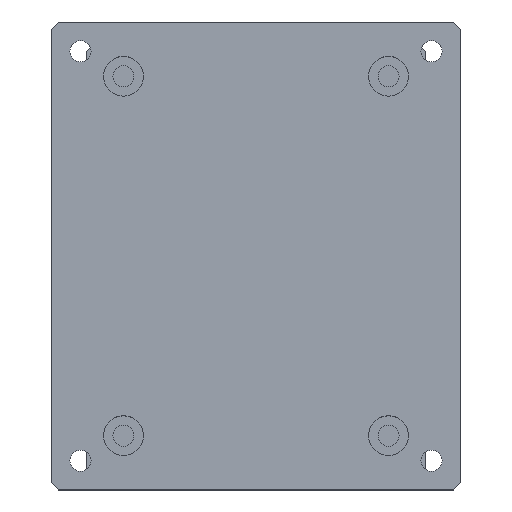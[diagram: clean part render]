
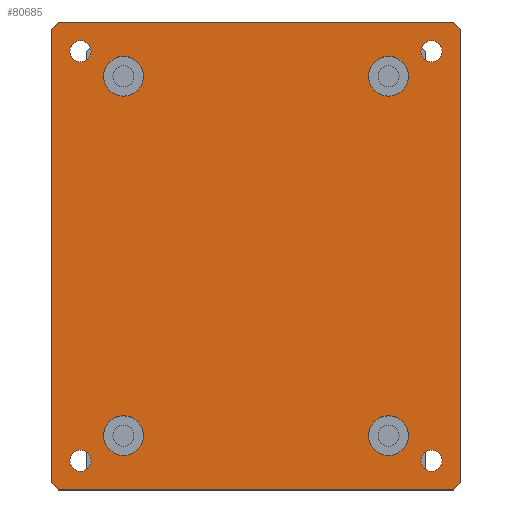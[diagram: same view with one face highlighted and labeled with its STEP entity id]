
A CAD part, top view. The second image highlights one B-rep face of the part: STEP entity #80685.
In plain terms, the highlighted planar face has unit normal (0, 0, 1).
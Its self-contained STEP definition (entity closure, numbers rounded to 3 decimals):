
#80022=DIRECTION('',(-0.707,0.707,0.));
#80023=VECTOR('',#80022,4.243);
#80024=CARTESIAN_POINT('',(-84.5,-100.,10.));
#80025=LINE('',#80024,#80023);
#80026=DIRECTION('',(0.,1.,0.));
#80027=VECTOR('',#80026,194.);
#80028=CARTESIAN_POINT('',(-87.5,-97.,10.));
#80029=LINE('',#80028,#80027);
#80030=DIRECTION('',(0.707,0.707,0.));
#80031=VECTOR('',#80030,4.243);
#80032=CARTESIAN_POINT('',(-87.5,97.,10.));
#80033=LINE('',#80032,#80031);
#80034=DIRECTION('',(1.,0.,0.));
#80035=VECTOR('',#80034,169.);
#80036=CARTESIAN_POINT('',(-84.5,100.,10.));
#80037=LINE('',#80036,#80035);
#80038=DIRECTION('',(0.707,-0.707,0.));
#80039=VECTOR('',#80038,4.243);
#80040=CARTESIAN_POINT('',(84.5,100.,10.));
#80041=LINE('',#80040,#80039);
#80042=DIRECTION('',(0.,-1.,0.));
#80043=VECTOR('',#80042,194.);
#80044=CARTESIAN_POINT('',(87.5,97.,10.));
#80045=LINE('',#80044,#80043);
#80046=DIRECTION('',(-0.707,-0.707,0.));
#80047=VECTOR('',#80046,4.243);
#80048=CARTESIAN_POINT('',(87.5,-97.,10.));
#80049=LINE('',#80048,#80047);
#80050=DIRECTION('',(-1.,0.,0.));
#80051=VECTOR('',#80050,169.);
#80052=CARTESIAN_POINT('',(84.5,-100.,10.));
#80053=LINE('',#80052,#80051);
#80054=CARTESIAN_POINT('',(-75.,87.5,10.));
#80055=DIRECTION('',(0.,0.,1.));
#80056=DIRECTION('',(1.,0.,0.));
#80057=AXIS2_PLACEMENT_3D('',#80054,#80055,#80056);
#80059=CARTESIAN_POINT('',(-75.,87.5,10.));
#80060=DIRECTION('',(0.,0.,1.));
#80061=DIRECTION('',(-1.,0.,0.));
#80062=AXIS2_PLACEMENT_3D('',#80059,#80060,#80061);
#80064=CARTESIAN_POINT('',(75.,-87.5,10.));
#80065=DIRECTION('',(0.,0.,1.));
#80066=DIRECTION('',(1.,0.,0.));
#80067=AXIS2_PLACEMENT_3D('',#80064,#80065,#80066);
#80069=CARTESIAN_POINT('',(75.,-87.5,10.));
#80070=DIRECTION('',(0.,0.,1.));
#80071=DIRECTION('',(-1.,0.,0.));
#80072=AXIS2_PLACEMENT_3D('',#80069,#80070,#80071);
#80074=CARTESIAN_POINT('',(-75.,-87.5,10.));
#80075=DIRECTION('',(0.,0.,1.));
#80076=DIRECTION('',(1.,0.,0.));
#80077=AXIS2_PLACEMENT_3D('',#80074,#80075,#80076);
#80079=CARTESIAN_POINT('',(-75.,-87.5,10.));
#80080=DIRECTION('',(0.,0.,1.));
#80081=DIRECTION('',(-1.,0.,0.));
#80082=AXIS2_PLACEMENT_3D('',#80079,#80080,#80081);
#80084=CARTESIAN_POINT('',(75.,87.5,10.));
#80085=DIRECTION('',(0.,0.,1.));
#80086=DIRECTION('',(1.,0.,0.));
#80087=AXIS2_PLACEMENT_3D('',#80084,#80085,#80086);
#80089=CARTESIAN_POINT('',(75.,87.5,10.));
#80090=DIRECTION('',(0.,0.,1.));
#80091=DIRECTION('',(-1.,0.,0.));
#80092=AXIS2_PLACEMENT_3D('',#80089,#80090,#80091);
#80094=CARTESIAN_POINT('',(-56.65,-76.8,10.));
#80095=DIRECTION('',(0.,0.,1.));
#80096=DIRECTION('',(-1.,0.,0.));
#80097=AXIS2_PLACEMENT_3D('',#80094,#80095,#80096);
#80099=CARTESIAN_POINT('',(-56.65,-76.8,10.));
#80100=DIRECTION('',(0.,0.,1.));
#80101=DIRECTION('',(1.,0.,0.));
#80102=AXIS2_PLACEMENT_3D('',#80099,#80100,#80101);
#80104=CARTESIAN_POINT('',(56.65,-76.8,10.));
#80105=DIRECTION('',(0.,0.,1.));
#80106=DIRECTION('',(-1.,0.,0.));
#80107=AXIS2_PLACEMENT_3D('',#80104,#80105,#80106);
#80109=CARTESIAN_POINT('',(56.65,-76.8,10.));
#80110=DIRECTION('',(0.,0.,1.));
#80111=DIRECTION('',(1.,0.,0.));
#80112=AXIS2_PLACEMENT_3D('',#80109,#80110,#80111);
#80114=CARTESIAN_POINT('',(56.65,76.8,10.));
#80115=DIRECTION('',(0.,0.,1.));
#80116=DIRECTION('',(-1.,0.,0.));
#80117=AXIS2_PLACEMENT_3D('',#80114,#80115,#80116);
#80119=CARTESIAN_POINT('',(56.65,76.8,10.));
#80120=DIRECTION('',(0.,0.,1.));
#80121=DIRECTION('',(1.,0.,0.));
#80122=AXIS2_PLACEMENT_3D('',#80119,#80120,#80121);
#80124=CARTESIAN_POINT('',(-56.65,76.8,10.));
#80125=DIRECTION('',(0.,0.,1.));
#80126=DIRECTION('',(-1.,0.,0.));
#80127=AXIS2_PLACEMENT_3D('',#80124,#80125,#80126);
#80129=CARTESIAN_POINT('',(-56.65,76.8,10.));
#80130=DIRECTION('',(0.,0.,1.));
#80131=DIRECTION('',(1.,0.,0.));
#80132=AXIS2_PLACEMENT_3D('',#80129,#80130,#80131);
#80390=CARTESIAN_POINT('',(-65.15,-76.8,10.));
#80391=CARTESIAN_POINT('',(-48.15,-76.8,10.));
#80392=VERTEX_POINT('',#80390);
#80393=VERTEX_POINT('',#80391);
#80394=CARTESIAN_POINT('',(-84.5,-100.,10.));
#80395=CARTESIAN_POINT('',(-87.5,-97.,10.));
#80396=VERTEX_POINT('',#80394);
#80397=VERTEX_POINT('',#80395);
#80398=CARTESIAN_POINT('',(-87.5,97.,10.));
#80399=VERTEX_POINT('',#80398);
#80400=CARTESIAN_POINT('',(-84.5,100.,10.));
#80401=VERTEX_POINT('',#80400);
#80402=CARTESIAN_POINT('',(84.5,100.,10.));
#80403=VERTEX_POINT('',#80402);
#80404=CARTESIAN_POINT('',(87.5,97.,10.));
#80405=VERTEX_POINT('',#80404);
#80406=CARTESIAN_POINT('',(87.5,-97.,10.));
#80407=VERTEX_POINT('',#80406);
#80408=CARTESIAN_POINT('',(84.5,-100.,10.));
#80409=VERTEX_POINT('',#80408);
#80410=CARTESIAN_POINT('',(-70.5,87.5,10.));
#80411=CARTESIAN_POINT('',(-79.5,87.5,10.));
#80412=VERTEX_POINT('',#80410);
#80413=VERTEX_POINT('',#80411);
#80414=CARTESIAN_POINT('',(79.5,-87.5,10.));
#80415=CARTESIAN_POINT('',(70.5,-87.5,10.));
#80416=VERTEX_POINT('',#80414);
#80417=VERTEX_POINT('',#80415);
#80418=CARTESIAN_POINT('',(-70.5,-87.5,10.));
#80419=CARTESIAN_POINT('',(-79.5,-87.5,10.));
#80420=VERTEX_POINT('',#80418);
#80421=VERTEX_POINT('',#80419);
#80422=CARTESIAN_POINT('',(79.5,87.5,10.));
#80423=CARTESIAN_POINT('',(70.5,87.5,10.));
#80424=VERTEX_POINT('',#80422);
#80425=VERTEX_POINT('',#80423);
#80426=CARTESIAN_POINT('',(48.15,-76.8,10.));
#80427=CARTESIAN_POINT('',(65.15,-76.8,10.));
#80428=VERTEX_POINT('',#80426);
#80429=VERTEX_POINT('',#80427);
#80430=CARTESIAN_POINT('',(48.15,76.8,10.));
#80431=CARTESIAN_POINT('',(65.15,76.8,10.));
#80432=VERTEX_POINT('',#80430);
#80433=VERTEX_POINT('',#80431);
#80434=CARTESIAN_POINT('',(-65.15,76.8,10.));
#80435=CARTESIAN_POINT('',(-48.15,76.8,10.));
#80436=VERTEX_POINT('',#80434);
#80437=VERTEX_POINT('',#80435);
#80622=CARTESIAN_POINT('',(0.,0.,10.));
#80623=DIRECTION('',(0.,0.,1.));
#80624=DIRECTION('',(1.,0.,0.));
#80625=AXIS2_PLACEMENT_3D('',#80622,#80623,#80624);
#80626=PLANE('',#80625);
#80627=ORIENTED_EDGE('',*,*,#80518,.T.);
#80628=ORIENTED_EDGE('',*,*,#80534,.T.);
#80629=ORIENTED_EDGE('',*,*,#80547,.T.);
#80630=ORIENTED_EDGE('',*,*,#80560,.T.);
#80631=ORIENTED_EDGE('',*,*,#80575,.T.);
#80632=ORIENTED_EDGE('',*,*,#80588,.T.);
#80633=ORIENTED_EDGE('',*,*,#80603,.T.);
#80634=ORIENTED_EDGE('',*,*,#80615,.T.);
#80635=EDGE_LOOP('',(#80627,#80628,#80629,#80630,#80631,#80632,#80633,#80634));
#80636=FACE_OUTER_BOUND('',#80635,.F.);
#80638=ORIENTED_EDGE('',*,*,#80637,.T.);
#80640=ORIENTED_EDGE('',*,*,#80639,.T.);
#80641=EDGE_LOOP('',(#80638,#80640));
#80642=FACE_BOUND('',#80641,.F.);
#80644=ORIENTED_EDGE('',*,*,#80643,.T.);
#80646=ORIENTED_EDGE('',*,*,#80645,.T.);
#80647=EDGE_LOOP('',(#80644,#80646));
#80648=FACE_BOUND('',#80647,.F.);
#80650=ORIENTED_EDGE('',*,*,#80649,.T.);
#80652=ORIENTED_EDGE('',*,*,#80651,.T.);
#80653=EDGE_LOOP('',(#80650,#80652));
#80654=FACE_BOUND('',#80653,.F.);
#80656=ORIENTED_EDGE('',*,*,#80655,.T.);
#80658=ORIENTED_EDGE('',*,*,#80657,.T.);
#80659=EDGE_LOOP('',(#80656,#80658));
#80660=FACE_BOUND('',#80659,.F.);
#80662=ORIENTED_EDGE('',*,*,#80661,.T.);
#80664=ORIENTED_EDGE('',*,*,#80663,.T.);
#80665=EDGE_LOOP('',(#80662,#80664));
#80666=FACE_BOUND('',#80665,.F.);
#80668=ORIENTED_EDGE('',*,*,#80667,.T.);
#80670=ORIENTED_EDGE('',*,*,#80669,.T.);
#80671=EDGE_LOOP('',(#80668,#80670));
#80672=FACE_BOUND('',#80671,.F.);
#80674=ORIENTED_EDGE('',*,*,#80673,.T.);
#80676=ORIENTED_EDGE('',*,*,#80675,.T.);
#80677=EDGE_LOOP('',(#80674,#80676));
#80678=FACE_BOUND('',#80677,.F.);
#80680=ORIENTED_EDGE('',*,*,#80679,.T.);
#80682=ORIENTED_EDGE('',*,*,#80681,.T.);
#80683=EDGE_LOOP('',(#80680,#80682));
#80684=FACE_BOUND('',#80683,.F.);
#80058=CIRCLE('',#80057,4.5);
#80063=CIRCLE('',#80062,4.5);
#80068=CIRCLE('',#80067,4.5);
#80073=CIRCLE('',#80072,4.5);
#80078=CIRCLE('',#80077,4.5);
#80083=CIRCLE('',#80082,4.5);
#80088=CIRCLE('',#80087,4.5);
#80093=CIRCLE('',#80092,4.5);
#80098=CIRCLE('',#80097,8.5);
#80103=CIRCLE('',#80102,8.5);
#80108=CIRCLE('',#80107,8.5);
#80113=CIRCLE('',#80112,8.5);
#80118=CIRCLE('',#80117,8.5);
#80123=CIRCLE('',#80122,8.5);
#80128=CIRCLE('',#80127,8.5);
#80133=CIRCLE('',#80132,8.5);
#80518=EDGE_CURVE('',#80396,#80397,#80025,.T.);
#80534=EDGE_CURVE('',#80397,#80399,#80029,.T.);
#80547=EDGE_CURVE('',#80399,#80401,#80033,.T.);
#80560=EDGE_CURVE('',#80401,#80403,#80037,.T.);
#80575=EDGE_CURVE('',#80403,#80405,#80041,.T.);
#80588=EDGE_CURVE('',#80405,#80407,#80045,.T.);
#80603=EDGE_CURVE('',#80407,#80409,#80049,.T.);
#80615=EDGE_CURVE('',#80409,#80396,#80053,.T.);
#80637=EDGE_CURVE('',#80412,#80413,#80058,.T.);
#80639=EDGE_CURVE('',#80413,#80412,#80063,.T.);
#80643=EDGE_CURVE('',#80416,#80417,#80068,.T.);
#80645=EDGE_CURVE('',#80417,#80416,#80073,.T.);
#80649=EDGE_CURVE('',#80420,#80421,#80078,.T.);
#80651=EDGE_CURVE('',#80421,#80420,#80083,.T.);
#80655=EDGE_CURVE('',#80424,#80425,#80088,.T.);
#80657=EDGE_CURVE('',#80425,#80424,#80093,.T.);
#80661=EDGE_CURVE('',#80392,#80393,#80098,.T.);
#80663=EDGE_CURVE('',#80393,#80392,#80103,.T.);
#80667=EDGE_CURVE('',#80428,#80429,#80108,.T.);
#80669=EDGE_CURVE('',#80429,#80428,#80113,.T.);
#80673=EDGE_CURVE('',#80432,#80433,#80118,.T.);
#80675=EDGE_CURVE('',#80433,#80432,#80123,.T.);
#80679=EDGE_CURVE('',#80436,#80437,#80128,.T.);
#80681=EDGE_CURVE('',#80437,#80436,#80133,.T.);
#80685=ADVANCED_FACE('',(#80636,#80642,#80648,#80654,#80660,#80666,#80672,
#80678,#80684),#80626,.T.);
